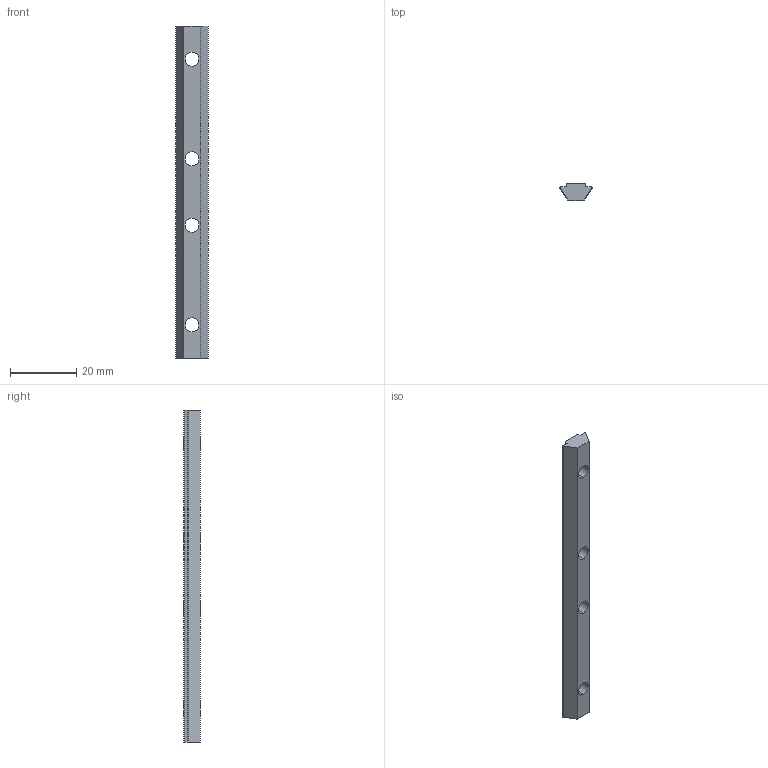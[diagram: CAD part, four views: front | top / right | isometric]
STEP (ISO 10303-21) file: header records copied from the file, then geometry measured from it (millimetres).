
FILE_DESCRIPTION (( 'STEP AP203' ), '1' );
FILE_NAME ('CP-JC20X20.STEP', '2018-03-15T12:59:05', ( '' ), ( '' ), 'SwSTEP 2.0', 'SolidWorks 2013', '' );
FILE_SCHEMA (( 'CONFIG_CONTROL_DESIGN' ));
Length unit declared in the file: millimetre
Products named in the file (1): CP-JC20X20
Bounding box: 9.68 x 5 x 100 mm (x, y, z)
Volume: 3285.3 mm3; surface area: 2791.4 mm2
Topology: 1 solids, 1 shells, 23 faces, 63 edges, 42 vertices
Faces by surface type: cylinder 13, plane 10
Entity records: 836 total; most frequent: DIRECTION 137, CARTESIAN_POINT 129, ORIENTED_EDGE 126, EDGE_CURVE 63, AXIS2_PLACEMENT_3D 50, VERTEX_POINT 42, VECTOR 37, LINE 37
